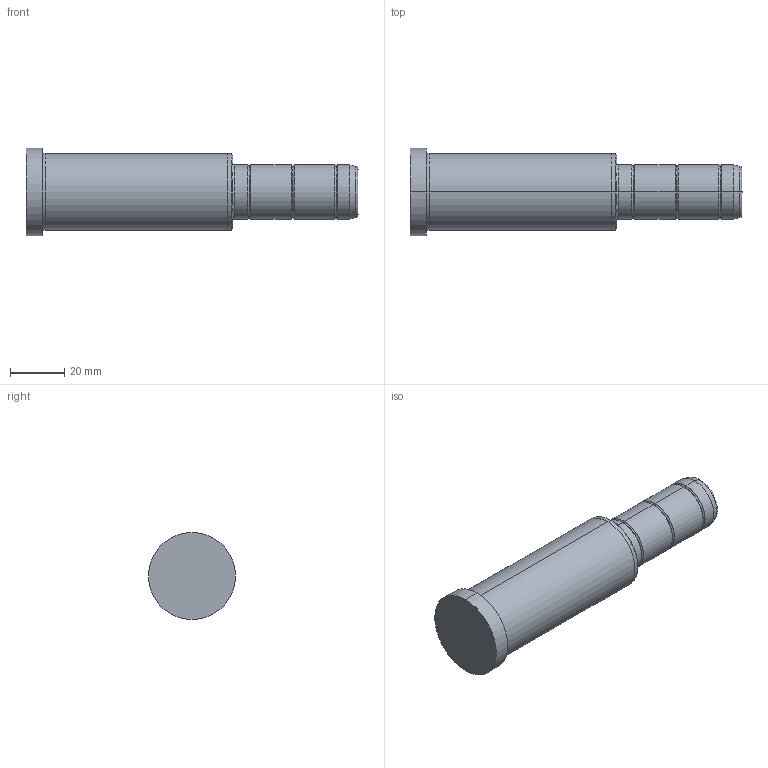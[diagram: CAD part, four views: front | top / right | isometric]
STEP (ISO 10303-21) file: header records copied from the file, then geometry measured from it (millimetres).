
FILE_DESCRIPTION( ( 'STEP AP203' ), '1' );
FILE_NAME( 'C:/Projects/D02 - 20x76x46.step', '2003-01-04T13:50:59', ( ' ' ), ( ' ' ), 'XStep 1.0', ' ', ' ' );
FILE_SCHEMA( ( 'CONFIG_CONTROL_DESIGN' ) );
Length unit declared in the file: metre
Products named in the file (1): 1
Bounding box: 122 x 32 x 32 mm (x, y, z)
Volume: 62278.3 mm3; surface area: 11261.2 mm2
Topology: 1 solids, 1 shells, 42 faces, 82 edges, 46 vertices
Faces by surface type: bspline 22, revolution 20
Entity records: 1325 total; most frequent: CARTESIAN_POINT 517, ORIENTED_EDGE 164, DIRECTION 134, EDGE_CURVE 82, AXIS2_PLACEMENT_3D 47, EDGE_LOOP 46, VERTEX_POINT 46, CIRCLE 46
